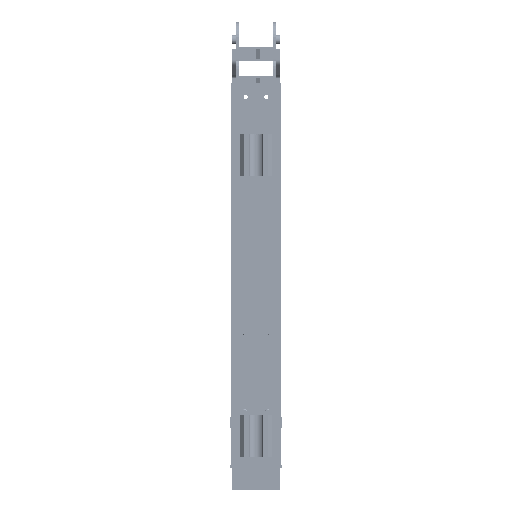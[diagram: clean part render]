
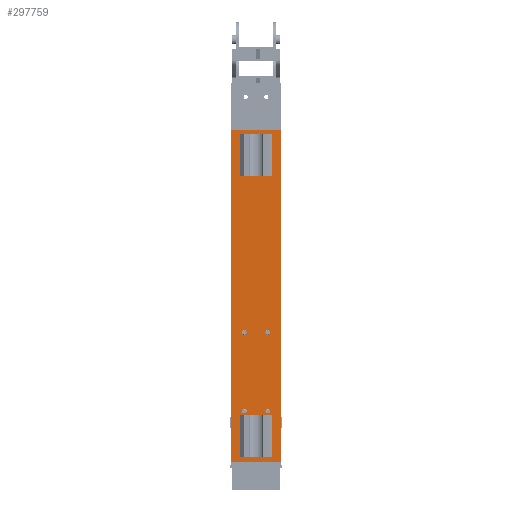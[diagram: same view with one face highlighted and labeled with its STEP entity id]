
A CAD part, left-side view. The second image highlights one B-rep face of the part: STEP entity #297759.
In plain terms, the highlighted planar face has unit normal (-1, 0, 0).
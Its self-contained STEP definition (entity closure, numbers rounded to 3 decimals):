
#43997=LINE('',#1352426,#136628);
#44000=LINE('',#1352433,#136631);
#44004=LINE('',#1352465,#136635);
#44005=LINE('',#1352466,#136636);
#136628=VECTOR('',#1085424,1.);
#136631=VECTOR('',#1085429,1.);
#136635=VECTOR('',#1085459,1.);
#136636=VECTOR('',#1085460,1.);
#261587=PLANE('',#944581);
#297759=ADVANCED_FACE('',(#345651,#345652,#345653,#345654,#345655,#345656,
#345657,#345658,#345659,#345660,#345661,#345662,#345663),#261587,.T.);
#345651=FACE_BOUND('',#373193,.T.);
#345652=FACE_BOUND('',#373194,.T.);
#345653=FACE_BOUND('',#373195,.T.);
#345654=FACE_BOUND('',#373196,.T.);
#345655=FACE_BOUND('',#373197,.T.);
#345656=FACE_BOUND('',#373198,.T.);
#345657=FACE_BOUND('',#373199,.T.);
#345658=FACE_BOUND('',#373200,.T.);
#345659=FACE_BOUND('',#373201,.T.);
#345660=FACE_BOUND('',#373202,.T.);
#345661=FACE_BOUND('',#373203,.T.);
#345662=FACE_BOUND('',#373204,.T.);
#345663=FACE_BOUND('',#373205,.T.);
#373193=EDGE_LOOP('',(#501791));
#373194=EDGE_LOOP('',(#501792));
#373195=EDGE_LOOP('',(#501793));
#373196=EDGE_LOOP('',(#501794));
#373197=EDGE_LOOP('',(#501795));
#373198=EDGE_LOOP('',(#501796));
#373199=EDGE_LOOP('',(#501797));
#373200=EDGE_LOOP('',(#501798));
#373201=EDGE_LOOP('',(#501799));
#373202=EDGE_LOOP('',(#501800));
#373203=EDGE_LOOP('',(#501801));
#373204=EDGE_LOOP('',(#501802));
#373205=EDGE_LOOP('',(#501803,#501804,#501805,#501806));
#501791=ORIENTED_EDGE('',*,*,#801258,.T.);
#501792=ORIENTED_EDGE('',*,*,#801259,.T.);
#501793=ORIENTED_EDGE('',*,*,#801260,.T.);
#501794=ORIENTED_EDGE('',*,*,#801261,.T.);
#501795=ORIENTED_EDGE('',*,*,#801262,.F.);
#501796=ORIENTED_EDGE('',*,*,#801263,.F.);
#501797=ORIENTED_EDGE('',*,*,#801264,.F.);
#501798=ORIENTED_EDGE('',*,*,#801265,.F.);
#501799=ORIENTED_EDGE('',*,*,#801266,.F.);
#501800=ORIENTED_EDGE('',*,*,#801267,.F.);
#501801=ORIENTED_EDGE('',*,*,#801268,.F.);
#501802=ORIENTED_EDGE('',*,*,#801269,.F.);
#501803=ORIENTED_EDGE('',*,*,#801254,.T.);
#501804=ORIENTED_EDGE('',*,*,#801270,.T.);
#501805=ORIENTED_EDGE('',*,*,#801251,.T.);
#501806=ORIENTED_EDGE('',*,*,#801271,.T.);
#699955=VERTEX_POINT('',#1352416);
#699960=VERTEX_POINT('',#1352425);
#699963=VERTEX_POINT('',#1352432);
#699964=VERTEX_POINT('',#1352434);
#699967=VERTEX_POINT('',#1352442);
#699968=VERTEX_POINT('',#1352444);
#699969=VERTEX_POINT('',#1352446);
#699970=VERTEX_POINT('',#1352448);
#699971=VERTEX_POINT('',#1352450);
#699972=VERTEX_POINT('',#1352452);
#699973=VERTEX_POINT('',#1352454);
#699974=VERTEX_POINT('',#1352456);
#699975=VERTEX_POINT('',#1352458);
#699976=VERTEX_POINT('',#1352460);
#699977=VERTEX_POINT('',#1352462);
#699978=VERTEX_POINT('',#1352464);
#801251=EDGE_CURVE('',#699955,#699960,#43997,.T.);
#801254=EDGE_CURVE('',#699964,#699963,#44000,.T.);
#801258=EDGE_CURVE('',#699967,#699967,#894921,.T.);
#801259=EDGE_CURVE('',#699968,#699968,#894922,.T.);
#801260=EDGE_CURVE('',#699969,#699969,#894923,.T.);
#801261=EDGE_CURVE('',#699970,#699970,#894924,.T.);
#801262=EDGE_CURVE('',#699971,#699971,#894925,.T.);
#801263=EDGE_CURVE('',#699972,#699972,#894926,.T.);
#801264=EDGE_CURVE('',#699973,#699973,#894927,.T.);
#801265=EDGE_CURVE('',#699974,#699974,#894928,.T.);
#801266=EDGE_CURVE('',#699975,#699975,#894929,.T.);
#801267=EDGE_CURVE('',#699976,#699976,#894930,.T.);
#801268=EDGE_CURVE('',#699977,#699977,#894931,.T.);
#801269=EDGE_CURVE('',#699978,#699978,#894932,.T.);
#801270=EDGE_CURVE('',#699963,#699955,#44004,.T.);
#801271=EDGE_CURVE('',#699960,#699964,#44005,.T.);
#894921=CIRCLE('',#944569,2.5);
#894922=CIRCLE('',#944570,2.5);
#894923=CIRCLE('',#944571,2.5);
#894924=CIRCLE('',#944572,2.5);
#894925=CIRCLE('',#944573,2.5);
#894926=CIRCLE('',#944574,2.5);
#894927=CIRCLE('',#944575,2.5);
#894928=CIRCLE('',#944576,2.5);
#894929=CIRCLE('',#944577,2.75);
#894930=CIRCLE('',#944578,2.75);
#894931=CIRCLE('',#944579,2.75);
#894932=CIRCLE('',#944580,2.75);
#944569=AXIS2_PLACEMENT_3D('',#1352441,#1085435,#1085436);
#944570=AXIS2_PLACEMENT_3D('',#1352443,#1085437,#1085438);
#944571=AXIS2_PLACEMENT_3D('',#1352445,#1085439,#1085440);
#944572=AXIS2_PLACEMENT_3D('',#1352447,#1085441,#1085442);
#944573=AXIS2_PLACEMENT_3D('',#1352449,#1085443,#1085444);
#944574=AXIS2_PLACEMENT_3D('',#1352451,#1085445,#1085446);
#944575=AXIS2_PLACEMENT_3D('',#1352453,#1085447,#1085448);
#944576=AXIS2_PLACEMENT_3D('',#1352455,#1085449,#1085450);
#944577=AXIS2_PLACEMENT_3D('',#1352457,#1085451,#1085452);
#944578=AXIS2_PLACEMENT_3D('',#1352459,#1085453,#1085454);
#944579=AXIS2_PLACEMENT_3D('',#1352461,#1085455,#1085456);
#944580=AXIS2_PLACEMENT_3D('',#1352463,#1085457,#1085458);
#944581=AXIS2_PLACEMENT_3D('',#1352467,#1085461,#1085462);
#1085424=DIRECTION('',(0.,0.,-1.));
#1085429=DIRECTION('',(0.,0.,1.));
#1085435=DIRECTION('',(1.,0.,0.));
#1085436=DIRECTION('',(0.,1.,0.));
#1085437=DIRECTION('',(1.,0.,0.));
#1085438=DIRECTION('',(0.,1.,0.));
#1085439=DIRECTION('',(1.,0.,0.));
#1085440=DIRECTION('',(0.,1.,0.));
#1085441=DIRECTION('',(1.,0.,0.));
#1085442=DIRECTION('',(0.,1.,0.));
#1085443=DIRECTION('',(-1.,0.,0.));
#1085444=DIRECTION('',(0.,0.,1.));
#1085445=DIRECTION('',(-1.,0.,0.));
#1085446=DIRECTION('',(0.,0.,1.));
#1085447=DIRECTION('',(-1.,0.,0.));
#1085448=DIRECTION('',(0.,0.,1.));
#1085449=DIRECTION('',(-1.,0.,0.));
#1085450=DIRECTION('',(0.,0.,1.));
#1085451=DIRECTION('',(-1.,0.,0.));
#1085452=DIRECTION('',(0.,0.,1.));
#1085453=DIRECTION('',(-1.,0.,0.));
#1085454=DIRECTION('',(0.,0.,1.));
#1085455=DIRECTION('',(-1.,0.,0.));
#1085456=DIRECTION('',(0.,0.,1.));
#1085457=DIRECTION('',(-1.,0.,0.));
#1085458=DIRECTION('',(0.,0.,1.));
#1085459=DIRECTION('',(0.,1.,0.));
#1085460=DIRECTION('',(0.,-1.,0.));
#1085461=DIRECTION('',(-1.,0.,0.));
#1085462=DIRECTION('',(0.,0.,1.));
#1352416=CARTESIAN_POINT('',(-771.,116.183,401.75));
#1352425=CARTESIAN_POINT('',(-771.,116.183,46.75));
#1352426=CARTESIAN_POINT('',(-771.,116.183,396.75));
#1352432=CARTESIAN_POINT('',(-771.,62.183,401.75));
#1352433=CARTESIAN_POINT('',(-771.,62.183,46.75));
#1352434=CARTESIAN_POINT('',(-771.,62.183,46.75));
#1352441=CARTESIAN_POINT('',(-771.,89.183,59.25));
#1352442=CARTESIAN_POINT('',(-771.,91.683,59.25));
#1352443=CARTESIAN_POINT('',(-771.,89.183,89.25));
#1352444=CARTESIAN_POINT('',(-771.,91.683,89.25));
#1352445=CARTESIAN_POINT('',(-771.,89.183,359.25));
#1352446=CARTESIAN_POINT('',(-771.,91.683,359.25));
#1352447=CARTESIAN_POINT('',(-771.,89.183,389.25));
#1352448=CARTESIAN_POINT('',(-771.,91.683,389.25));
#1352449=CARTESIAN_POINT('',(-771.,76.683,100.75));
#1352450=CARTESIAN_POINT('',(-771.,76.683,103.25));
#1352451=CARTESIAN_POINT('',(-771.,101.683,185.));
#1352452=CARTESIAN_POINT('',(-771.,101.683,187.5));
#1352453=CARTESIAN_POINT('',(-771.,76.683,185.));
#1352454=CARTESIAN_POINT('',(-771.,76.683,187.5));
#1352455=CARTESIAN_POINT('',(-771.,101.683,100.75));
#1352456=CARTESIAN_POINT('',(-771.,101.683,103.25));
#1352457=CARTESIAN_POINT('',(-771.,103.183,74.25));
#1352458=CARTESIAN_POINT('',(-771.,103.183,77.));
#1352459=CARTESIAN_POINT('',(-771.,75.183,74.25));
#1352460=CARTESIAN_POINT('',(-771.,75.183,77.));
#1352461=CARTESIAN_POINT('',(-771.,103.183,374.25));
#1352462=CARTESIAN_POINT('',(-771.,103.183,377.));
#1352463=CARTESIAN_POINT('',(-771.,75.183,374.25));
#1352464=CARTESIAN_POINT('',(-771.,75.183,377.));
#1352465=CARTESIAN_POINT('',(-771.,177.183,401.75));
#1352466=CARTESIAN_POINT('',(-771.,116.183,46.75));
#1352467=CARTESIAN_POINT('',(-771.,177.183,97.75));
